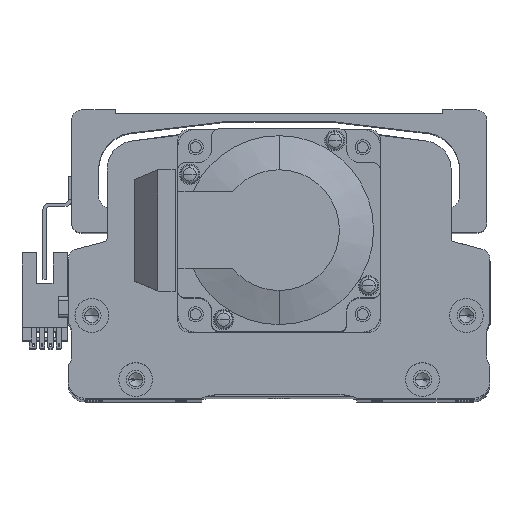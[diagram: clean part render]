
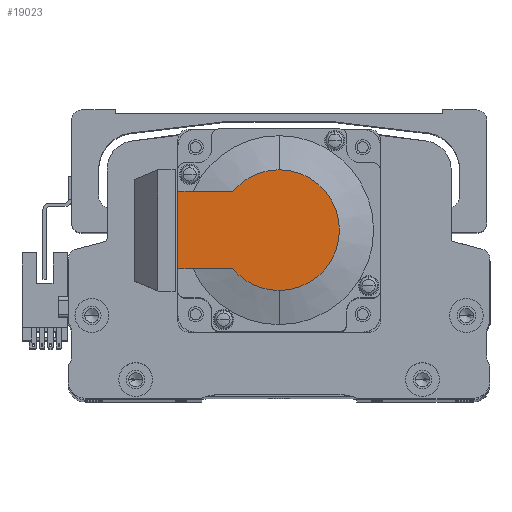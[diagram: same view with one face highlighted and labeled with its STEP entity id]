
A CAD part, top view. The second image highlights one B-rep face of the part: STEP entity #19023.
In plain terms, the highlighted planar face has unit normal (0, 0, 1) as drawn and (-1, 0, 0) by its records, which use the part's own axes.
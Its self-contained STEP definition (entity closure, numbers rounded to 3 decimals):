
#495 = DIRECTION ( 'NONE',  ( 0., 0., 1. ) ) ;
#1221 = DIRECTION ( 'NONE',  ( 0., 0., -1. ) ) ;
#1744 = VECTOR ( 'NONE', #50712, 1000. ) ;
#2791 = CARTESIAN_POINT ( 'NONE',  ( -118.5, 13.735, -11.45 ) ) ;
#3151 = CARTESIAN_POINT ( 'NONE',  ( -118.5, -8.941, 0. ) ) ;
#4190 = ORIENTED_EDGE ( 'NONE', *, *, #21034, .T. ) ;
#5084 = VERTEX_POINT ( 'NONE', #25458 ) ;
#6166 = VERTEX_POINT ( 'NONE', #27830 ) ;
#7329 = DIRECTION ( 'NONE',  ( 0., 0., 1. ) ) ;
#8576 = ORIENTED_EDGE ( 'NONE', *, *, #33711, .T. ) ;
#9090 = CARTESIAN_POINT ( 'NONE',  ( -118.5, -8.941, -11.45 ) ) ;
#10201 = AXIS2_PLACEMENT_3D ( 'NONE', #40525, #15663, #44701 ) ;
#10414 = VECTOR ( 'NONE', #45986, 1000. ) ;
#12414 = VERTEX_POINT ( 'NONE', #29181 ) ;
#12817 = LINE ( 'NONE', #9090, #1744 ) ;
#14733 = EDGE_CURVE ( 'NONE', #38334, #5084, #19154, .T. ) ;
#14788 = DIRECTION ( 'NONE',  ( -1., 0., 0. ) ) ;
#15663 = DIRECTION ( 'NONE',  ( -1., 0., 0. ) ) ;
#15713 = FACE_OUTER_BOUND ( 'NONE', #51403, .T. ) ;
#15737 = ORIENTED_EDGE ( 'NONE', *, *, #44647, .T. ) ;
#16271 = ORIENTED_EDGE ( 'NONE', *, *, #19199, .F. ) ;
#18603 = AXIS2_PLACEMENT_3D ( 'NONE', #39665, #14788, #43836 ) ;
#18965 = VERTEX_POINT ( 'NONE', #2791 ) ;
#19023 = ADVANCED_FACE ( 'NONE', ( #15713 ), #36201, .T. ) ;
#19154 = CIRCLE ( 'NONE', #10201, 17.881 ) ;
#19199 = EDGE_CURVE ( 'NONE', #6166, #5084, #22792, .T. ) ;
#19619 = CARTESIAN_POINT ( 'NONE',  ( -118.5, 0., 17.881 ) ) ;
#19706 = CIRCLE ( 'NONE', #18603, 17.881 ) ;
#20371 = VERTEX_POINT ( 'NONE', #42560 ) ;
#21034 = EDGE_CURVE ( 'NONE', #12414, #18965, #12817, .T. ) ;
#22792 = LINE ( 'NONE', #37941, #10414 ) ;
#25117 = CIRCLE ( 'NONE', #35347, 17.881 ) ;
#25417 = CARTESIAN_POINT ( 'NONE',  ( -118.5, 30., 25. ) ) ;
#25458 = CARTESIAN_POINT ( 'NONE',  ( -118.5, 13.735, 11.45 ) ) ;
#26126 = DIRECTION ( 'NONE',  ( -1., 0., 0. ) ) ;
#27830 = CARTESIAN_POINT ( 'NONE',  ( -118.5, 30., 11.45 ) ) ;
#28146 = ORIENTED_EDGE ( 'NONE', *, *, #44545, .F. ) ;
#29181 = CARTESIAN_POINT ( 'NONE',  ( -118.5, 30., -11.45 ) ) ;
#30304 = LINE ( 'NONE', #25417, #52412 ) ;
#32216 = DIRECTION ( 'NONE',  ( -1., 0., 0. ) ) ;
#33711 = EDGE_CURVE ( 'NONE', #20371, #38334, #19706, .T. ) ;
#35347 = AXIS2_PLACEMENT_3D ( 'NONE', #51030, #26126, #1221 ) ;
#36201 = PLANE ( 'NONE',  #51512 ) ;
#37672 = ORIENTED_EDGE ( 'NONE', *, *, #14733, .T. ) ;
#37941 = CARTESIAN_POINT ( 'NONE',  ( -118.5, 0., 11.45 ) ) ;
#38334 = VERTEX_POINT ( 'NONE', #19619 ) ;
#39665 = CARTESIAN_POINT ( 'NONE',  ( -118.5, 0., 0. ) ) ;
#40525 = CARTESIAN_POINT ( 'NONE',  ( -118.5, 0., 0. ) ) ;
#42560 = CARTESIAN_POINT ( 'NONE',  ( -118.5, 0., -17.881 ) ) ;
#43836 = DIRECTION ( 'NONE',  ( 0., 0., -1. ) ) ;
#44545 = EDGE_CURVE ( 'NONE', #12414, #6166, #30304, .T. ) ;
#44647 = EDGE_CURVE ( 'NONE', #18965, #20371, #25117, .T. ) ;
#44701 = DIRECTION ( 'NONE',  ( 0., 0., -1. ) ) ;
#45986 = DIRECTION ( 'NONE',  ( 0., -1., 0. ) ) ;
#50712 = DIRECTION ( 'NONE',  ( 0., -1., 0. ) ) ;
#51030 = CARTESIAN_POINT ( 'NONE',  ( -118.5, 0., 0. ) ) ;
#51403 = EDGE_LOOP ( 'NONE', ( #4190, #15737, #8576, #37672, #16271, #28146 ) ) ;
#51512 = AXIS2_PLACEMENT_3D ( 'NONE', #3151, #32216, #7329 ) ;
#52412 = VECTOR ( 'NONE', #495, 1000. ) ;
